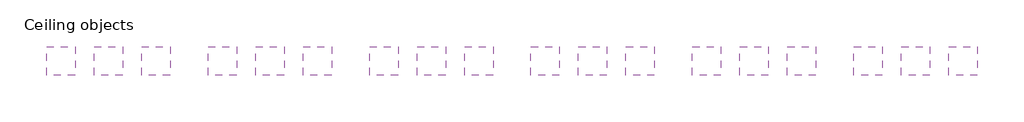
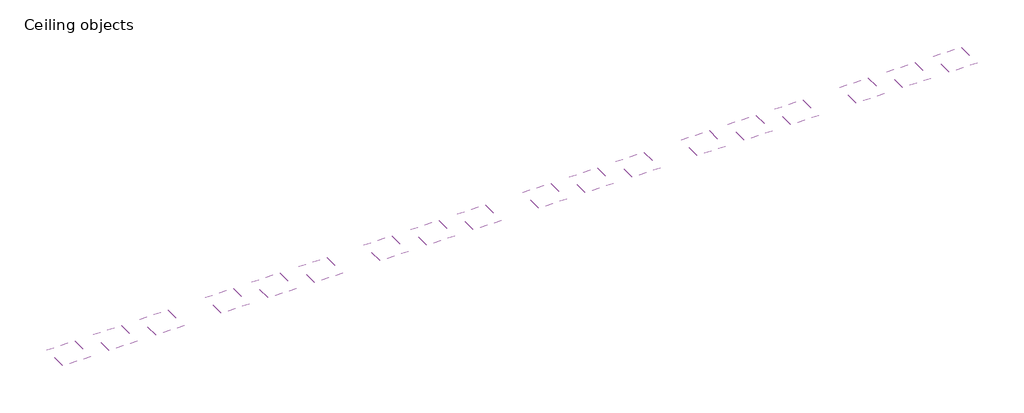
# One storey: 18 coverings.
"""IFC4 building model written with IfcOpenShell, lengths in millimetres."""

import ifcopenshell
import ifcopenshell.guid

model = None  # the IFC model being written
_history = None  # IfcOwnerHistory: only IFC2X3 demands one
_inside = {}  # id of a spatial element -> (the spatial element, [elements in it])
_under = {}  # id of a project, library or spatial element -> (it, [spatial elements below it])
_declared = {}  # id of a project -> (the project, [libraries it declares])
_typed = {}  # id of a type object -> (the type object, [elements of that type])
_made_of = {}  # id of a material, layer set ... -> (it, [elements and type objects made of it])


def new_model(schema):
    """Start an empty IFC model of exactly this schema.

    Asked for "IFC4X3", IfcOpenShell would pick the latest addendum, in which some entities
    have other attributes; the version numbers below select the first issue.
    IFC2X3 requires an IfcOwnerHistory on every rooted entity: one is made here for all.
    """
    global model, _history
    if schema == "IFC4X3":
        model = ifcopenshell.file(schema_version=(4, 3, 0, 0))
    else:
        model = ifcopenshell.file(schema=schema)
    _inside.clear()
    _under.clear()
    _declared.clear()
    _typed.clear()
    _made_of.clear()
    _history = None
    if model.schema == "IFC2X3":
        org = make("IfcOrganization", Name="unknown")
        user = make(
            "IfcPersonAndOrganization",
            ThePerson=make("IfcPerson", FamilyName="unknown"),
            TheOrganization=org,
        )
        app = make(
            "IfcApplication",
            ApplicationDeveloper=org,
            Version="unknown",
            ApplicationFullName="unknown",
            ApplicationIdentifier="unknown",
        )
        _history = make(
            "IfcOwnerHistory",
            OwningUser=user,
            OwningApplication=app,
            ChangeAction="ADDED",
            CreationDate=0,
        )
    return model


def make(cls, **values):
    """One entity of the class cls with the attributes given. An attribute that is None is left unset."""
    return model.create_entity(
        cls, **{name: value for name, value in values.items() if value is not None}
    )


def rooted(cls, **values):
    """An entity with a GlobalId (a new one), such as an element, a storey or a relation."""
    return make(cls, GlobalId=ifcopenshell.guid.new(), OwnerHistory=_history, **values)


def si_unit(unit_type, name, prefix=None):
    """IfcSIUnit, for example si_unit("LENGTHUNIT", "METRE", prefix="MILLI")."""
    return make("IfcSIUnit", UnitType=unit_type, Prefix=prefix, Name=name)


def assignment(units):
    """IfcUnitAssignment: the units of a project."""
    return None if units is None else make("IfcUnitAssignment", Units=units)


def point(xyz):
    """IfcCartesianPoint."""
    return None if xyz is None else make("IfcCartesianPoint", Coordinates=xyz)


def direction(xyz):
    """IfcDirection."""
    return None if xyz is None else make("IfcDirection", DirectionRatios=xyz)


def frame(location, z_axis=None, x_axis=None):
    """IfcAxis2Placement3D, a coordinate frame: its origin and axes. An axis left out is left unset."""
    return make(
        "IfcAxis2Placement3D",
        Location=point(location),
        Axis=direction(z_axis),
        RefDirection=direction(x_axis),
    )


def origin():
    """The frame at (0, 0, 0) with its axes left unset."""
    return frame((0.0, 0.0, 0.0))


def place(relative_to, where):
    """IfcLocalPlacement: puts the frame where relative to a parent placement (None: the world)."""
    return make(
        "IfcLocalPlacement", PlacementRelTo=relative_to, RelativePlacement=where
    )


def context(
    kind, dimensions, precision=None, world=None, true_north=None, identifier=None
):
    """IfcGeometricRepresentationContext, for example the 3D "Model" context."""
    return make(
        "IfcGeometricRepresentationContext",
        ContextIdentifier=identifier,
        ContextType=kind,
        CoordinateSpaceDimension=dimensions,
        Precision=precision,
        WorldCoordinateSystem=world,
        TrueNorth=true_north,
    )


def project(units=None, contexts=None):
    """IfcProject with its units and contexts."""
    return rooted(
        "IfcProject",
        Name="project",
        RepresentationContexts=contexts,
        UnitsInContext=assignment(units),
    )


def spatial(cls, under=None, at=None, **own):
    """A site, building, storey or space (cls), placed at a placement, below another one or the project."""
    s = rooted(cls, ObjectPlacement=at, **own)
    if under is not None:
        _under.setdefault(under.id(), (under, []))[1].append(s)
    return s


def polyline(points):
    """IfcPolyline through the points."""
    return make("IfcPolyline", Points=[point(p) for p in points])


def outline(outer, holes=None, kind="AREA"):
    """IfcArbitraryClosedProfileDef: a profile drawn as a closed curve; with holes, ...WithVoids."""
    if holes is None:
        return make("IfcArbitraryClosedProfileDef", ProfileType=kind, OuterCurve=outer)
    return make(
        "IfcArbitraryProfileDefWithVoids",
        ProfileType=kind,
        OuterCurve=outer,
        InnerCurves=holes,
    )


def extrude(swept, where, along, depth):
    """IfcExtrudedAreaSolid: the profile swept, set in the frame where, extruded along a direction by depth."""
    return make(
        "IfcExtrudedAreaSolid",
        SweptArea=swept,
        Position=where,
        ExtrudedDirection=direction(along),
        Depth=depth,
    )


def shape(context_of_items, identifier, shape_type, items):
    """IfcShapeRepresentation: the items that make up one representation, for example the "Body"."""
    return make(
        "IfcShapeRepresentation",
        ContextOfItems=context_of_items,
        RepresentationIdentifier=identifier,
        RepresentationType=shape_type,
        Items=items,
    )


def made_of(thing, what):
    """Note that an element or type object is made of a material, layer set ...; save() writes the relation."""
    if what is not None:
        _made_of.setdefault(what.id(), (what, []))[1].append(thing)
    return thing


def element(
    cls,
    number,
    at=None,
    inside=None,
    cuts=None,
    type_object=None,
    material=None,
    context=None,
    identifier="Body",
    shape_type=None,
    held_by="IfcProductDefinitionShape",
    body=None,
    shapes=None,
    **own,
):
    """One element of the class cls, such as IfcWall. Its Tag is "e" and its number.

    at: its placement. inside: the storey or other place that contains it. cuts: it is an
    opening in that element (IfcRelVoidsElement). A single representation is given by context,
    identifier, shape_type and body (its items); several are given by shapes. held_by: the class
    of the entity that holds the representations. save() writes the other relations.
    """
    e = rooted(cls, Tag="e%d" % number, ObjectPlacement=at, **own)
    if body is not None:
        shapes = [shape(context, identifier, shape_type, body)]
    if shapes is not None:
        e.Representation = make(held_by, Representations=shapes)
    if inside is not None:
        _inside.setdefault(inside.id(), (inside, []))[1].append(e)
    if cuts is not None:
        rooted(
            "IfcRelVoidsElement", RelatingBuildingElement=cuts, RelatedOpeningElement=e
        )
    if type_object is not None:
        _typed.setdefault(type_object.id(), (type_object, []))[1].append(e)
    return made_of(e, material)


def aggregate(whole, parts):
    """IfcRelAggregates: a whole, such as a stair, and the parts it consists of."""
    return rooted("IfcRelAggregates", RelatingObject=whole, RelatedObjects=parts)


def save(model, path):
    """Write the relations noted so far, then the file.

    IfcRelAggregates (storeys below a building ...), IfcRelContainedInSpatialStructure (elements
    in a storey), IfcRelDefinesByType, IfcRelAssociatesMaterial and IfcRelDeclares: one each for
    every whole, place, type object, material and project.
    """
    for whole, parts in _under.values():
        aggregate(whole, parts)
    for where, things in _inside.values():
        rooted(
            "IfcRelContainedInSpatialStructure",
            RelatedElements=things,
            RelatingStructure=where,
        )
    for kind, things in _typed.values():
        rooted("IfcRelDefinesByType", RelatedObjects=things, RelatingType=kind)
    for what, things in _made_of.values():
        rooted("IfcRelAssociatesMaterial", RelatedObjects=things, RelatingMaterial=what)
    for by, libraries in _declared.values():
        rooted("IfcRelDeclares", RelatingContext=by, RelatedDefinitions=libraries)
    model.write(path)


model = new_model("IFC4")

# Units and contexts
model_context = context("Model", 3, world=origin())
ifc_project = project(units=[si_unit("LENGTHUNIT", "METRE", prefix="MILLI")], contexts=[model_context])

# Site, building, storey
site = spatial("IfcSite", under=ifc_project)
building = spatial("IfcBuilding", under=site)
storey = spatial("IfcBuildingStorey", under=building, Name="Ceiling objects", Elevation=0.0)

# Coverings
placement = place(None, origin())
element("IfcCovering", 1, ObjectType="Knauf Danoline Corridor 400 Globe 2400x400x9.5_Self-supporting_D", at=placement, inside=storey, context=model_context, shape_type="SweptSolid", body=[
    extrude(outline(polyline([(-4783.0103193, 8117.0281757), (-4783.0103193, 5117.0281757), (-7783.0103193, 5117.0281757), (-7783.0103193, 8117.0281757), (-4783.0103193, 8117.0281757)])), frame((0.0, 0.0, 2600.0), z_axis=(0.0, 0.0, 1.0), x_axis=(1.0, 0.0, 0.0)), (0.0, 0.0, 1.0), 53.0000017),
])
element("IfcCovering", 2, ObjectType="Knauf Danoline Corridor 400 Globe 1800x400x9.5_Self-supporting_D", at=placement, inside=storey, context=model_context, shape_type="SweptSolid", body=[
    extrude(outline(polyline([(216.9898407, 8117.0281757), (216.9898407, 5117.0281757), (-2783.0101593, 5117.0281757), (-2783.0101593, 8117.0281757), (216.9898407, 8117.0281757)])), frame((0.0, 0.0, 2600.0), z_axis=(0.0, 0.0, 1.0), x_axis=(1.0, 0.0, 0.0)), (0.0, 0.0, 1.0), 53.0000017),
])
element("IfcCovering", 3, ObjectType="Knauf Danoline Corridor 400 Globe 1200x400x9.5_Self-supporting_D", at=placement, inside=storey, context=model_context, shape_type="SweptSolid", body=[
    extrude(outline(polyline([(5216.9900007, 8117.0281757), (5216.9900007, 5117.0281757), (2216.9900007, 5117.0281757), (2216.9900007, 8117.0281757), (5216.9900007, 8117.0281757)])), frame((0.0, 0.0, 2600.0), z_axis=(0.0, 0.0, 1.0), x_axis=(1.0, 0.0, 0.0)), (0.0, 0.0, 1.0), 53.0000017),
])
element("IfcCovering", 4, ObjectType="Knauf Danoline Corridor 400 Micro 2400x400x9.5_Self-supporting_D", at=placement, inside=storey, context=model_context, shape_type="SweptSolid", body=[
    extrude(outline(polyline([(12216.9902247, 8117.0281757), (12216.9902247, 5117.0281757), (9216.9902247, 5117.0281757), (9216.9902247, 8117.0281757), (12216.9902247, 8117.0281757)])), frame((0.0, 0.0, 2600.0), z_axis=(0.0, 0.0, 1.0), x_axis=(1.0, 0.0, 0.0)), (0.0, 0.0, 1.0), 53.0000017),
])
element("IfcCovering", 5, ObjectType="Knauf Danoline Corridor 400 Micro 1800x400x9.5_Self-supporting_D", at=placement, inside=storey, context=model_context, shape_type="SweptSolid", body=[
    extrude(outline(polyline([(17216.9903847, 8117.0281757), (17216.9903847, 5117.0281757), (14216.9903847, 5117.0281757), (14216.9903847, 8117.0281757), (17216.9903847, 8117.0281757)])), frame((0.0, 0.0, 2600.0), z_axis=(0.0, 0.0, 1.0), x_axis=(1.0, 0.0, 0.0)), (0.0, 0.0, 1.0), 53.0000017),
])
element("IfcCovering", 6, ObjectType="Knauf Danoline Corridor 400 Micro 1200x400x9.5_Self-supporting_D", at=placement, inside=storey, context=model_context, shape_type="SweptSolid", body=[
    extrude(outline(polyline([(22216.9905447, 8117.0281757), (22216.9905447, 5117.0281757), (19216.9905447, 5117.0281757), (19216.9905447, 8117.0281757), (22216.9905447, 8117.0281757)])), frame((0.0, 0.0, 2600.0), z_axis=(0.0, 0.0, 1.0), x_axis=(1.0, 0.0, 0.0)), (0.0, 0.0, 1.0), 53.0000017),
])
element("IfcCovering", 7, ObjectType="Knauf Danoline Corridor 400 Quadril 2400x400x9.5_Self-supporting_D", at=placement, inside=storey, context=model_context, shape_type="SweptSolid", body=[
    extrude(outline(polyline([(29216.9907687, 8117.0281757), (29216.9907687, 5117.0281757), (26216.9907687, 5117.0281757), (26216.9907687, 8117.0281757), (29216.9907687, 8117.0281757)])), frame((0.0, 0.0, 2600.0), z_axis=(0.0, 0.0, 1.0), x_axis=(1.0, 0.0, 0.0)), (0.0, 0.0, 1.0), 53.0000017),
])
element("IfcCovering", 8, ObjectType="Knauf Danoline Corridor 400 Quadril 1800x400x9.5_Self-supporting_D", at=placement, inside=storey, context=model_context, shape_type="SweptSolid", body=[
    extrude(outline(polyline([(34216.9909287, 8117.0281757), (34216.9909287, 5117.0281757), (31216.9909287, 5117.0281757), (31216.9909287, 8117.0281757), (34216.9909287, 8117.0281757)])), frame((0.0, 0.0, 2600.0), z_axis=(0.0, 0.0, 1.0), x_axis=(1.0, 0.0, 0.0)), (0.0, 0.0, 1.0), 53.0000017),
])
element("IfcCovering", 9, ObjectType="Knauf Danoline Corridor 400 Quadril 1200x400x9.5_Self-supporting_D", at=placement, inside=storey, context=model_context, shape_type="SweptSolid", body=[
    extrude(outline(polyline([(39216.9910887, 8117.0281757), (39216.9910887, 5117.0281757), (36216.9910887, 5117.0281757), (36216.9910887, 8117.0281757), (39216.9910887, 8117.0281757)])), frame((0.0, 0.0, 2600.0), z_axis=(0.0, 0.0, 1.0), x_axis=(1.0, 0.0, 0.0)), (0.0, 0.0, 1.0), 53.0000017),
])
element("IfcCovering", 10, ObjectType="Knauf Danoline Corridor 400 Regular 2400x400x9.5_Self-supporting_D", at=placement, inside=storey, context=model_context, shape_type="SweptSolid", body=[
    extrude(outline(polyline([(46216.9913127, 8117.0281757), (46216.9913127, 5117.0281757), (43216.9913127, 5117.0281757), (43216.9913127, 8117.0281757), (46216.9913127, 8117.0281757)])), frame((0.0, 0.0, 2600.0), z_axis=(0.0, 0.0, 1.0), x_axis=(1.0, 0.0, 0.0)), (0.0, 0.0, 1.0), 53.0000017),
])
element("IfcCovering", 11, ObjectType="Knauf Danoline Corridor 400 Regular 1800x400x9.5_Self-supporting_D", at=placement, inside=storey, context=model_context, shape_type="SweptSolid", body=[
    extrude(outline(polyline([(51216.9914727, 8117.0281757), (51216.9914727, 5117.0281757), (48216.9914727, 5117.0281757), (48216.9914727, 8117.0281757), (51216.9914727, 8117.0281757)])), frame((0.0, 0.0, 2600.0), z_axis=(0.0, 0.0, 1.0), x_axis=(1.0, 0.0, 0.0)), (0.0, 0.0, 1.0), 53.0000017),
])
element("IfcCovering", 12, ObjectType="Knauf Danoline Corridor 400 Regular 1200x400x9.5_Self-supporting_D", at=placement, inside=storey, context=model_context, shape_type="SweptSolid", body=[
    extrude(outline(polyline([(56216.9916327, 8117.0281757), (56216.9916327, 5117.0281757), (53216.9916327, 5117.0281757), (53216.9916327, 8117.0281757), (56216.9916327, 8117.0281757)])), frame((0.0, 0.0, 2600.0), z_axis=(0.0, 0.0, 1.0), x_axis=(1.0, 0.0, 0.0)), (0.0, 0.0, 1.0), 53.0000017),
])
element("IfcCovering", 13, ObjectType="Knauf Danoline Corridor 400 Tangent 2400x400x9.5_Self-supporting_D", at=placement, inside=storey, context=model_context, shape_type="SweptSolid", body=[
    extrude(outline(polyline([(63216.9918567, 8117.0281757), (63216.9918567, 5117.0281757), (60216.9918567, 5117.0281757), (60216.9918567, 8117.0281757), (63216.9918567, 8117.0281757)])), frame((0.0, 0.0, 2600.0), z_axis=(0.0, 0.0, 1.0), x_axis=(1.0, 0.0, 0.0)), (0.0, 0.0, 1.0), 53.0000017),
])
element("IfcCovering", 14, ObjectType="Knauf Danoline Corridor 400 Tangent 1800x400x9.5_Self-supporting_D", at=placement, inside=storey, context=model_context, shape_type="SweptSolid", body=[
    extrude(outline(polyline([(68216.9920167, 8117.0281757), (68216.9920167, 5117.0281757), (65216.9920167, 5117.0281757), (65216.9920167, 8117.0281757), (68216.9920167, 8117.0281757)])), frame((0.0, 0.0, 2600.0), z_axis=(0.0, 0.0, 1.0), x_axis=(1.0, 0.0, 0.0)), (0.0, 0.0, 1.0), 53.0000017),
])
element("IfcCovering", 15, ObjectType="Knauf Danoline Corridor 400 Tangent 1200x400x9.5_Self-supporting_D", at=placement, inside=storey, context=model_context, shape_type="SweptSolid", body=[
    extrude(outline(polyline([(73216.9921767, 8117.0281757), (73216.9921767, 5117.0281757), (70216.9921767, 5117.0281757), (70216.9921767, 8117.0281757), (73216.9921767, 8117.0281757)])), frame((0.0, 0.0, 2600.0), z_axis=(0.0, 0.0, 1.0), x_axis=(1.0, 0.0, 0.0)), (0.0, 0.0, 1.0), 53.0000017),
])
element("IfcCovering", 16, ObjectType="Knauf Danoline Corridor 400 Unity 6 2400x400x9.5_Self-supporting_D", at=placement, inside=storey, context=model_context, shape_type="SweptSolid", body=[
    extrude(outline(polyline([(80216.9924007, 8117.0281757), (80216.9924007, 5117.0281757), (77216.9924007, 5117.0281757), (77216.9924007, 8117.0281757), (80216.9924007, 8117.0281757)])), frame((0.0, 0.0, 2600.0), z_axis=(0.0, 0.0, 1.0), x_axis=(1.0, 0.0, 0.0)), (0.0, 0.0, 1.0), 53.0000017),
])
element("IfcCovering", 17, ObjectType="Knauf Danoline Corridor 400 Unity 6 1800x400x9.5_Self-supporting_D", at=placement, inside=storey, context=model_context, shape_type="SweptSolid", body=[
    extrude(outline(polyline([(85216.9925607, 8117.0281757), (85216.9925607, 5117.0281757), (82216.9925607, 5117.0281757), (82216.9925607, 8117.0281757), (85216.9925607, 8117.0281757)])), frame((0.0, 0.0, 2600.0), z_axis=(0.0, 0.0, 1.0), x_axis=(1.0, 0.0, 0.0)), (0.0, 0.0, 1.0), 53.0000017),
])
element("IfcCovering", 18, ObjectType="Knauf Danoline Corridor 400 Unity 6 1200x400x9.5_Self-supporting_D", at=placement, inside=storey, context=model_context, shape_type="SweptSolid", body=[
    extrude(outline(polyline([(90216.9927207, 8117.0281757), (90216.9927207, 5117.0281757), (87216.9927207, 5117.0281757), (87216.9927207, 8117.0281757), (90216.9927207, 8117.0281757)])), frame((0.0, 0.0, 2600.0), z_axis=(0.0, 0.0, 1.0), x_axis=(1.0, 0.0, 0.0)), (0.0, 0.0, 1.0), 53.0000017),
])

save(model, "model.ifc")
